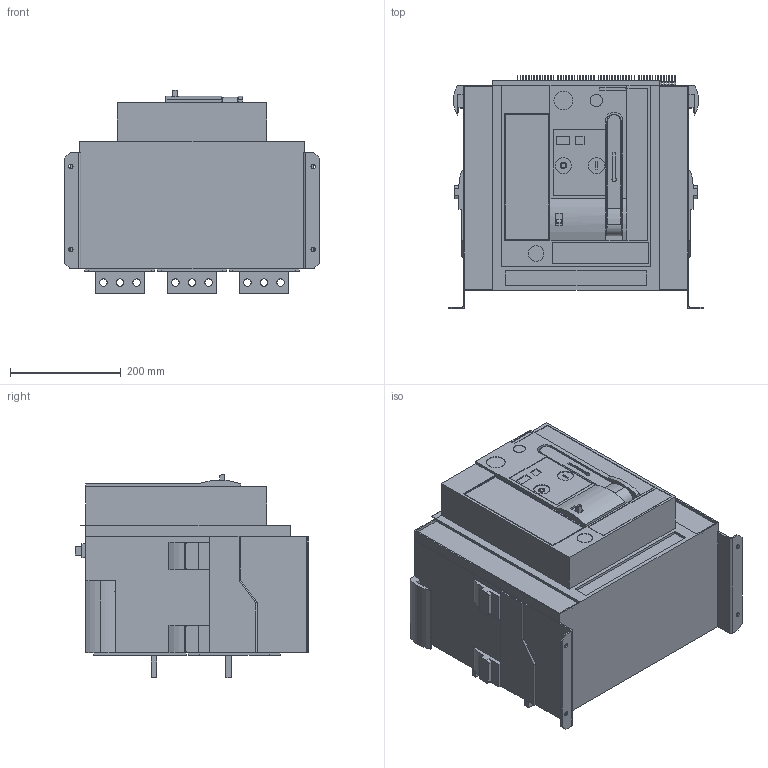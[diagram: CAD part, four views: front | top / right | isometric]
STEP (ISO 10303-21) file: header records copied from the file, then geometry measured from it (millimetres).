
FILE_DESCRIPTION (( 'STEP AP214' ), '1' );
FILE_NAME ('ARION_WL1220-___32.step', '2012-01-10T14:45:27', ( 'Radek Veselý' ), ( 'Siemens and Partners' ), 'SwSTEP 2.0', 'SolidWorks 2006303', '' );
FILE_SCHEMA (( 'AUTOMOTIVE_DESIGN' ));
Length unit declared in the file: millimetre
Products named in the file (1): ARION_WL1220-___32
Bounding box: 460 x 422.4 x 367.16 mm (x, y, z)
Volume: 41829871 mm3; surface area: 1145107.6 mm2
Topology: 4 solids, 4 shells, 1265 faces, 3154 edges, 2093 vertices
Faces by surface type: plane 1028, cylinder 233, torus 4
Entity records: 51340 total; most frequent: CARTESIAN_POINT 6561, ORIENTED_EDGE 6308, DIRECTION 6141, EDGE_CURVE 3154, VECTOR 2683, LINE 2683, VERTEX_POINT 2093, AXIS2_PLACEMENT_3D 1729
